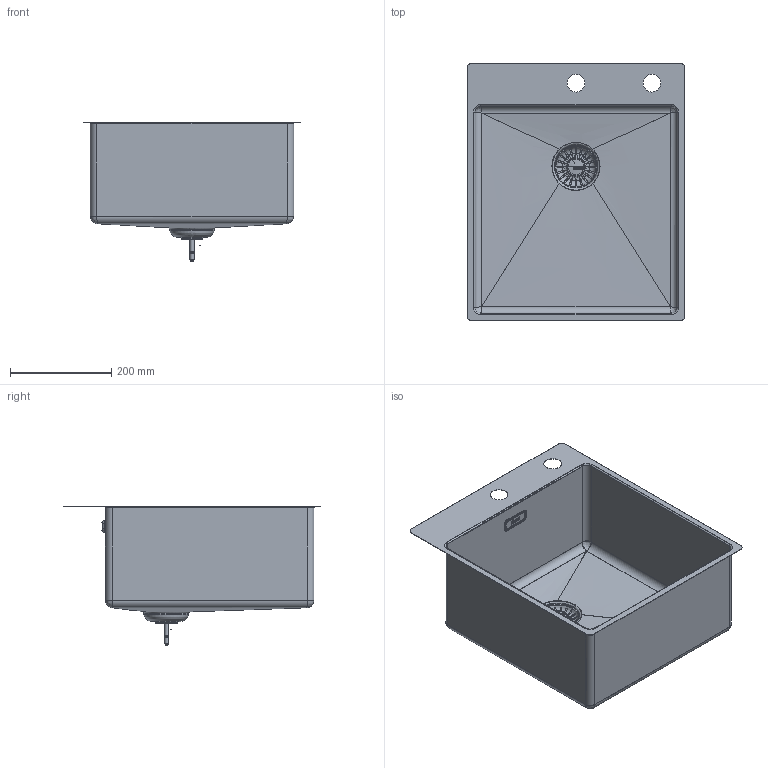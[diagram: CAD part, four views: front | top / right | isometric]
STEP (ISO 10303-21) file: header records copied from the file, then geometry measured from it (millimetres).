
FILE_DESCRIPTION(/* description */ (''),/* implementation_level */ '2;1');
FILE_NAME(/* name */ '3D001_Sinks_Franke-Box_BXX-210-40-TL',/* time_stamp */ '2024-02-01T11:39:57+01:00',/* author */ (''),/* organization */ (''),/* preprocessor_version */ 'ST-DEVELOPER v19.2',/* originating_system */ 'Rhino 8.3',/* authorisation */ '');
FILE_SCHEMA (('CONFIG_CONTROL_DESIGN'));
Length unit declared in the file: millimetre
Products named in the file (3): Document; wastekit; 20112104_IPT_000
Bounding box: 430 x 510 x 276.23 mm (x, y, z)
Volume: 529310.1 mm3; surface area: 1086717.2 mm2
Topology: 5 solids, 15 shells, 1331 faces, 3860 edges, 2518 vertices
Faces by surface type: plane 684, bspline 341, cylinder 306
Full cylindrical faces by diameter (mm): 3.242 x1, 4 x1, 4.5 x2, 5.85 x2, 6 x2, 6.2 x1, 8 x2, 11 x1, 12.2 x1, 25 x1, 31 x1, 35 x2, 47 x1, 84 x1
Entity records: 68569 total; most frequent: CARTESIAN_POINT 36393, ORIENTED_EDGE 7497, DIRECTION 4510, EDGE_CURVE 3834, AXIS2_PLACEMENT_3D 2750, VERTEX_POINT 2518, B_SPLINE_CURVE_WITH_KNOTS 2059, CIRCLE 1750
